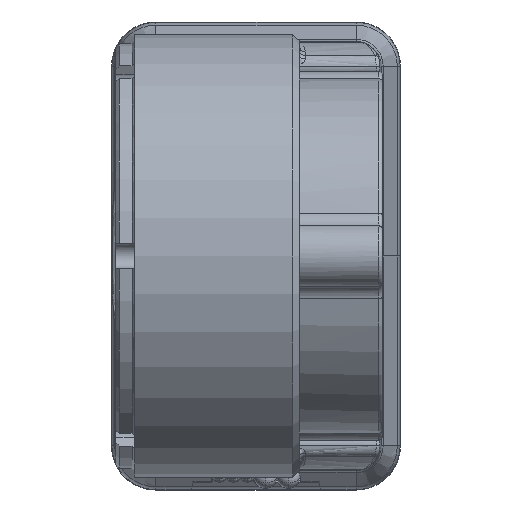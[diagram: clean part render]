
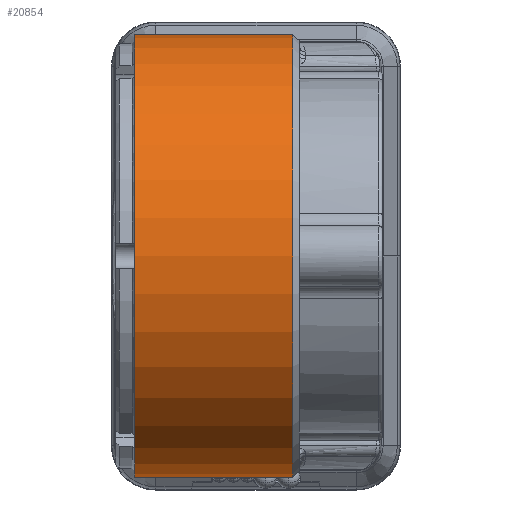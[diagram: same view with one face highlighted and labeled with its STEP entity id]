
A CAD part, front view. The second image highlights one B-rep face of the part: STEP entity #20854.
In plain terms, the highlighted cylindrical face has radius 17.5 mm (diameter 35 mm), a partial arc.
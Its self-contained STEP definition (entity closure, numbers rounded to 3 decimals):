
#704 = CIRCLE ( 'NONE', #26883, 17.5 ) ;
#4177 = VERTEX_POINT ( 'NONE', #43252 ) ;
#5340 = EDGE_CURVE ( 'NONE', #11887, #4177, #7786, .T. ) ;
#7608 = AXIS2_PLACEMENT_3D ( 'NONE', #21875, #48945, #49449 ) ;
#7785 = ORIENTED_EDGE ( 'NONE', *, *, #18345, .T. ) ;
#7786 = LINE ( 'NONE', #50130, #16371 ) ;
#8393 = FACE_OUTER_BOUND ( 'NONE', #8780, .T. ) ;
#8780 = EDGE_LOOP ( 'NONE', ( #35450, #44494, #7785, #28148 ) ) ;
#11091 = VERTEX_POINT ( 'NONE', #28631 ) ;
#11887 = VERTEX_POINT ( 'NONE', #26890 ) ;
#12197 = CARTESIAN_POINT ( 'NONE',  ( -4.001, 0., -17.5 ) ) ;
#16371 = VECTOR ( 'NONE', #34466, 1000. ) ;
#17801 = VERTEX_POINT ( 'NONE', #36361 ) ;
#18345 = EDGE_CURVE ( 'NONE', #11091, #17801, #18781, .T. ) ;
#18781 = LINE ( 'NONE', #12197, #23081 ) ;
#19382 = CARTESIAN_POINT ( 'NONE',  ( 10.2, 0., 0. ) ) ;
#19821 = EDGE_CURVE ( 'NONE', #17801, #4177, #704, .T. ) ;
#20854 = ADVANCED_FACE ( 'NONE', ( #8393 ), #49896, .T. ) ;
#21875 = CARTESIAN_POINT ( 'NONE',  ( -4.001, 0., 0. ) ) ;
#22657 = AXIS2_PLACEMENT_3D ( 'NONE', #36518, #36353, #32788 ) ;
#23081 = VECTOR ( 'NONE', #50380, 1000. ) ;
#26883 = AXIS2_PLACEMENT_3D ( 'NONE', #19382, #30947, #38632 ) ;
#26890 = CARTESIAN_POINT ( 'NONE',  ( -2.3, 0., 17.5 ) ) ;
#28148 = ORIENTED_EDGE ( 'NONE', *, *, #19821, .T. ) ;
#28631 = CARTESIAN_POINT ( 'NONE',  ( -2.3, 0., -17.5 ) ) ;
#30947 = DIRECTION ( 'NONE',  ( -1., 0., 0. ) ) ;
#32788 = DIRECTION ( 'NONE',  ( 0., 0., 1. ) ) ;
#34466 = DIRECTION ( 'NONE',  ( 1., 0., 0. ) ) ;
#35450 = ORIENTED_EDGE ( 'NONE', *, *, #5340, .F. ) ;
#35954 = CIRCLE ( 'NONE', #22657, 17.5 ) ;
#36353 = DIRECTION ( 'NONE',  ( 1., 0., 0. ) ) ;
#36361 = CARTESIAN_POINT ( 'NONE',  ( 10.2, 0., -17.5 ) ) ;
#36518 = CARTESIAN_POINT ( 'NONE',  ( -2.3, 0., 0. ) ) ;
#38632 = DIRECTION ( 'NONE',  ( 0., 0., 1. ) ) ;
#43252 = CARTESIAN_POINT ( 'NONE',  ( 10.2, 0., 17.5 ) ) ;
#44494 = ORIENTED_EDGE ( 'NONE', *, *, #49045, .T. ) ;
#48945 = DIRECTION ( 'NONE',  ( 1., 0., 0. ) ) ;
#49045 = EDGE_CURVE ( 'NONE', #11887, #11091, #35954, .T. ) ;
#49449 = DIRECTION ( 'NONE',  ( 0., 0., -1. ) ) ;
#49896 = CYLINDRICAL_SURFACE ( 'NONE', #7608, 17.5 ) ;
#50130 = CARTESIAN_POINT ( 'NONE',  ( -4.001, 0., 17.5 ) ) ;
#50380 = DIRECTION ( 'NONE',  ( 1., 0., 0. ) ) ;
